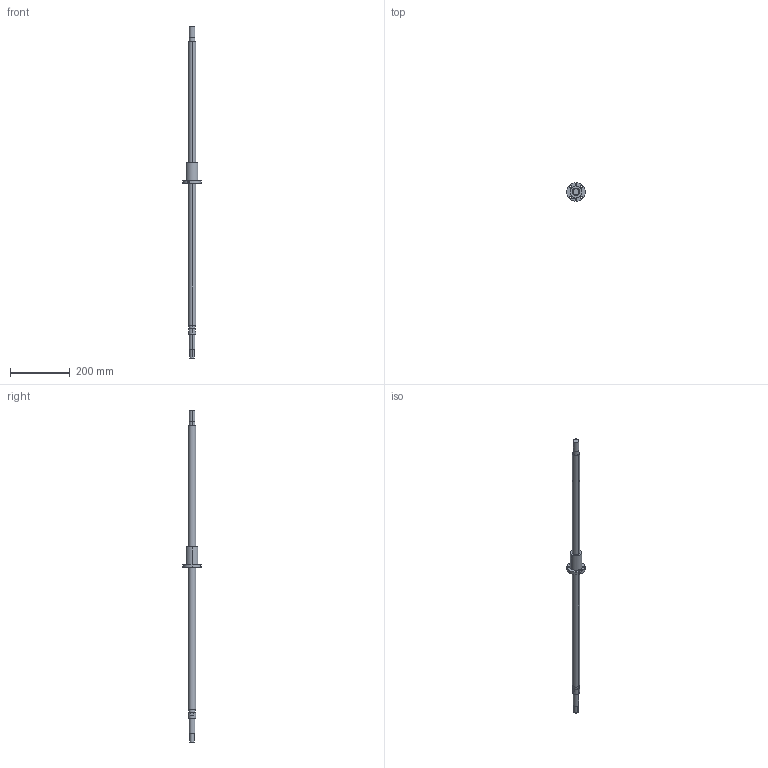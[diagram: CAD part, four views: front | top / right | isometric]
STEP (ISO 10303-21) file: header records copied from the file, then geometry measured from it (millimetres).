
FILE_DESCRIPTION((''),'2;1');
FILE_NAME('25-25K2','2008-04-11T',('cmliu'),(''),'PRO/ENGINEER BY PARAMETRIC TECHNOLOGY CORPORATION, 2004110','PRO/ENGINEER BY PARAMETRIC TECHNOLOGY CORPORATION, 2004110','');
FILE_SCHEMA(('CONFIG_CONTROL_DESIGN'));
Length unit declared in the file: millimetre
Products named in the file (1): 25-25K2
Bounding box: 62 x 62 x 1113 mm (x, y, z)
Volume: 585453.2 mm3; surface area: 96208.7 mm2
Topology: 1 solids, 1 shells, 56 faces, 126 edges, 84 vertices
Faces by surface type: cylinder 39, plane 17
Entity records: 1715 total; most frequent: CARTESIAN_POINT 321, DIRECTION 310, ORIENTED_EDGE 252, AXIS2_PLACEMENT_3D 132, EDGE_CURVE 126, VERTEX_POINT 84, EDGE_LOOP 80, CIRCLE 76
